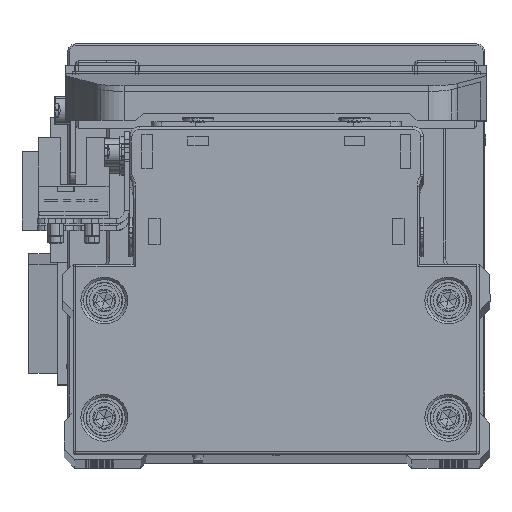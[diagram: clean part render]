
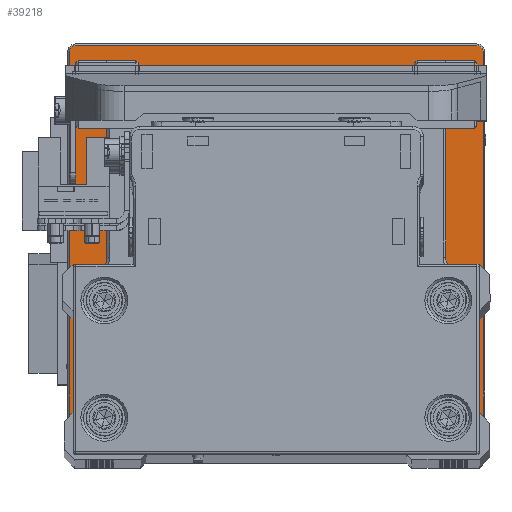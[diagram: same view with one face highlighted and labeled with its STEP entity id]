
A CAD part, top view. The second image highlights one B-rep face of the part: STEP entity #39218.
In plain terms, the highlighted planar face has unit normal (0, 0, 1) as drawn and (0, 1, 0) by its records, which use the part's own axes.
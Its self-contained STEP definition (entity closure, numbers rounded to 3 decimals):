
#132 = EDGE_CURVE ( 'NONE', #32840, #20437, #9883, .T. ) ;
#573 = EDGE_CURVE ( 'NONE', #3847, #39431, #7087, .T. ) ;
#1886 = CARTESIAN_POINT ( 'NONE',  ( 0., 12., 0. ) ) ;
#2034 = DIRECTION ( 'NONE',  ( 0., 0., 1. ) ) ;
#3704 = DIRECTION ( 'NONE',  ( 0., 1., 0. ) ) ;
#3847 = VERTEX_POINT ( 'NONE', #11676 ) ;
#4213 = VERTEX_POINT ( 'NONE', #20893 ) ;
#4413 = AXIS2_PLACEMENT_3D ( 'NONE', #1886, #14244, #26594 ) ;
#4707 = CARTESIAN_POINT ( 'NONE',  ( 0., 12., -20.5 ) ) ;
#4915 = FACE_OUTER_BOUND ( 'NONE', #34211, .T. ) ;
#5256 = LINE ( 'NONE', #17602, #37748 ) ;
#5661 = DIRECTION ( 'NONE',  ( 0., 0., -1. ) ) ;
#5740 = CARTESIAN_POINT ( 'NONE',  ( 0., 12., -39.7 ) ) ;
#6265 = AXIS2_PLACEMENT_3D ( 'NONE', #23946, #36295, #8566 ) ;
#6319 = ORIENTED_EDGE ( 'NONE', *, *, #36548, .F. ) ;
#7087 = CIRCLE ( 'NONE', #29724, 1.2 ) ;
#7436 = ORIENTED_EDGE ( 'NONE', *, *, #12988, .T. ) ;
#8362 = AXIS2_PLACEMENT_3D ( 'NONE', #9126, #21470, #33811 ) ;
#8566 = DIRECTION ( 'NONE',  ( 0., 0., -1. ) ) ;
#8642 = ORIENTED_EDGE ( 'NONE', *, *, #12102, .T. ) ;
#9126 = CARTESIAN_POINT ( 'NONE',  ( 38.5, 12., 38.5 ) ) ;
#9287 = CARTESIAN_POINT ( 'NONE',  ( 0., 12., 0. ) ) ;
#9677 = CARTESIAN_POINT ( 'NONE',  ( -39.7, 12., 0. ) ) ;
#9883 = CIRCLE ( 'NONE', #32508, 20.5 ) ;
#10299 = EDGE_LOOP ( 'NONE', ( #6319, #22900 ) ) ;
#10790 = VECTOR ( 'NONE', #5661, 1000. ) ;
#11245 = DIRECTION ( 'NONE',  ( 0., 0., -1. ) ) ;
#11427 = CIRCLE ( 'NONE', #34063, 20.5 ) ;
#11676 = CARTESIAN_POINT ( 'NONE',  ( -38.5, 12., -39.7 ) ) ;
#12102 = EDGE_CURVE ( 'NONE', #26158, #25646, #21044, .T. ) ;
#12988 = EDGE_CURVE ( 'NONE', #37805, #4213, #38028, .T. ) ;
#14016 = EDGE_CURVE ( 'NONE', #39431, #37805, #37400, .T. ) ;
#14244 = DIRECTION ( 'NONE',  ( 0., -1., 0. ) ) ;
#16041 = DIRECTION ( 'NONE',  ( 0., 0., -1. ) ) ;
#16457 = CARTESIAN_POINT ( 'NONE',  ( -39.7, 12., 38.5 ) ) ;
#16972 = VERTEX_POINT ( 'NONE', #38941 ) ;
#17271 = FACE_BOUND ( 'NONE', #10299, .T. ) ;
#17417 = CARTESIAN_POINT ( 'NONE',  ( 0., 12., 0. ) ) ;
#17602 = CARTESIAN_POINT ( 'NONE',  ( 0., 12., 39.7 ) ) ;
#18078 = ORIENTED_EDGE ( 'NONE', *, *, #14016, .T. ) ;
#18103 = DIRECTION ( 'NONE',  ( -1., 0., 0. ) ) ;
#18407 = EDGE_CURVE ( 'NONE', #29058, #3847, #33473, .T. ) ;
#18963 = ORIENTED_EDGE ( 'NONE', *, *, #18407, .T. ) ;
#20335 = EDGE_CURVE ( 'NONE', #16972, #26158, #25800, .T. ) ;
#20437 = VERTEX_POINT ( 'NONE', #31372 ) ;
#20594 = AXIS2_PLACEMENT_3D ( 'NONE', #26641, #38978, #11245 ) ;
#20632 = CARTESIAN_POINT ( 'NONE',  ( 38.5, 12., -39.7 ) ) ;
#20893 = CARTESIAN_POINT ( 'NONE',  ( -38.5, 12., 39.7 ) ) ;
#21044 = LINE ( 'NONE', #33389, #10790 ) ;
#21470 = DIRECTION ( 'NONE',  ( 0., 1., 0. ) ) ;
#21632 = DIRECTION ( 'NONE',  ( 0., 1., 0. ) ) ;
#21925 = CARTESIAN_POINT ( 'NONE',  ( -39.7, 12., -38.5 ) ) ;
#22026 = DIRECTION ( 'NONE',  ( 0., 0., 1. ) ) ;
#22900 = ORIENTED_EDGE ( 'NONE', *, *, #132, .F. ) ;
#23714 = CIRCLE ( 'NONE', #6265, 1.2 ) ;
#23946 = CARTESIAN_POINT ( 'NONE',  ( 38.5, 12., -38.5 ) ) ;
#24379 = ORIENTED_EDGE ( 'NONE', *, *, #37987, .T. ) ;
#25646 = VERTEX_POINT ( 'NONE', #29506 ) ;
#25800 = CIRCLE ( 'NONE', #8362, 1.2 ) ;
#26158 = VERTEX_POINT ( 'NONE', #29876 ) ;
#26594 = DIRECTION ( 'NONE',  ( 0., 0., -1. ) ) ;
#26641 = CARTESIAN_POINT ( 'NONE',  ( -38.5, 12., 38.5 ) ) ;
#27484 = ORIENTED_EDGE ( 'NONE', *, *, #20335, .T. ) ;
#28429 = VECTOR ( 'NONE', #22026, 1000. ) ;
#29058 = VERTEX_POINT ( 'NONE', #20632 ) ;
#29506 = CARTESIAN_POINT ( 'NONE',  ( 39.7, 12., -38.5 ) ) ;
#29625 = PLANE ( 'NONE',  #4413 ) ;
#29724 = AXIS2_PLACEMENT_3D ( 'NONE', #31436, #3704, #16041 ) ;
#29771 = DIRECTION ( 'NONE',  ( 0., 1., 0. ) ) ;
#29876 = CARTESIAN_POINT ( 'NONE',  ( 39.7, 12., 38.5 ) ) ;
#29956 = DIRECTION ( 'NONE',  ( 1., 0., 0. ) ) ;
#30401 = EDGE_CURVE ( 'NONE', #4213, #16972, #5256, .T. ) ;
#30559 = ORIENTED_EDGE ( 'NONE', *, *, #573, .T. ) ;
#31372 = CARTESIAN_POINT ( 'NONE',  ( 0., 12., 20.5 ) ) ;
#31436 = CARTESIAN_POINT ( 'NONE',  ( -38.5, 12., -38.5 ) ) ;
#32508 = AXIS2_PLACEMENT_3D ( 'NONE', #9287, #21632, #33966 ) ;
#32840 = VERTEX_POINT ( 'NONE', #4707 ) ;
#33389 = CARTESIAN_POINT ( 'NONE',  ( 39.7, 12., 0. ) ) ;
#33473 = LINE ( 'NONE', #5740, #36053 ) ;
#33811 = DIRECTION ( 'NONE',  ( 0., 0., -1. ) ) ;
#33966 = DIRECTION ( 'NONE',  ( 0., 0., 1. ) ) ;
#34063 = AXIS2_PLACEMENT_3D ( 'NONE', #17417, #29771, #2034 ) ;
#34211 = EDGE_LOOP ( 'NONE', ( #24379, #18963, #30559, #18078, #7436, #37467, #27484, #8642 ) ) ;
#36053 = VECTOR ( 'NONE', #18103, 1000. ) ;
#36295 = DIRECTION ( 'NONE',  ( 0., 1., 0. ) ) ;
#36548 = EDGE_CURVE ( 'NONE', #20437, #32840, #11427, .T. ) ;
#37400 = LINE ( 'NONE', #9677, #28429 ) ;
#37467 = ORIENTED_EDGE ( 'NONE', *, *, #30401, .T. ) ;
#37748 = VECTOR ( 'NONE', #29956, 1000. ) ;
#37805 = VERTEX_POINT ( 'NONE', #16457 ) ;
#37987 = EDGE_CURVE ( 'NONE', #25646, #29058, #23714, .T. ) ;
#38028 = CIRCLE ( 'NONE', #20594, 1.2 ) ;
#38941 = CARTESIAN_POINT ( 'NONE',  ( 38.5, 12., 39.7 ) ) ;
#38978 = DIRECTION ( 'NONE',  ( 0., 1., 0. ) ) ;
#39218 = ADVANCED_FACE ( 'NONE', ( #4915, #17271 ), #29625, .F. ) ;
#39431 = VERTEX_POINT ( 'NONE', #21925 ) ;
